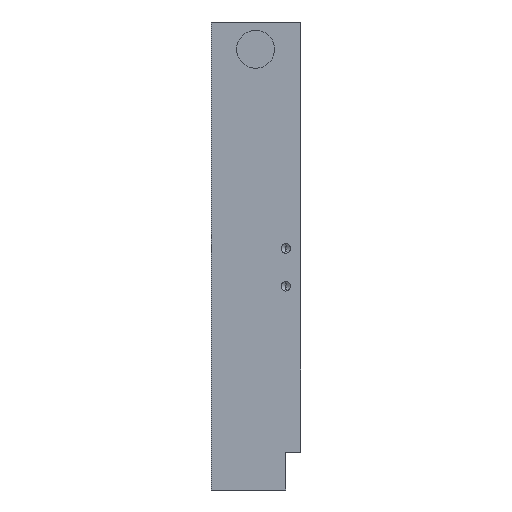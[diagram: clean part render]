
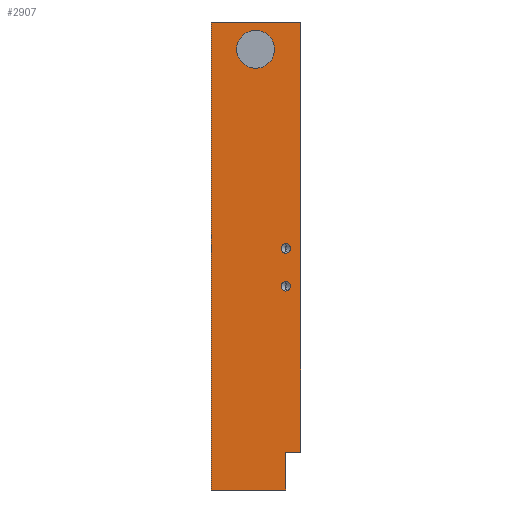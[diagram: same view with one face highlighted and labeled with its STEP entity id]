
A CAD part, left-side view. The second image highlights one B-rep face of the part: STEP entity #2907.
In plain terms, the highlighted planar face has unit normal (-1, 0, 0).
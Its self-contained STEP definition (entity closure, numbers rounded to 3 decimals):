
#21 = VERTEX_POINT ( 'NONE', #3416 ) ;
#139 = DIRECTION ( 'NONE',  ( 0., 0., 1. ) ) ;
#142 = VERTEX_POINT ( 'NONE', #4151 ) ;
#167 = LINE ( 'NONE', #244, #1692 ) ;
#205 = AXIS2_PLACEMENT_3D ( 'NONE', #3031, #296, #2312 ) ;
#238 = CARTESIAN_POINT ( 'NONE',  ( -164., 23.7, -61.75 ) ) ;
#244 = CARTESIAN_POINT ( 'NONE',  ( -164., 0.2, 61.75 ) ) ;
#279 = ORIENTED_EDGE ( 'NONE', *, *, #4381, .F. ) ;
#284 = CIRCLE ( 'NONE', #205, 5. ) ;
#296 = DIRECTION ( 'NONE',  ( -1., 0., 0. ) ) ;
#307 = VECTOR ( 'NONE', #3133, 1000. ) ;
#334 = LINE ( 'NONE', #1296, #1901 ) ;
#340 = DIRECTION ( 'NONE',  ( 0., 0., -1. ) ) ;
#353 = DIRECTION ( 'NONE',  ( 0., 0., 1. ) ) ;
#365 = CARTESIAN_POINT ( 'NONE',  ( -164., 23.7, 61.75 ) ) ;
#366 = PLANE ( 'NONE',  #3773 ) ;
#383 = DIRECTION ( 'NONE',  ( 1., 0., 0. ) ) ;
#463 = EDGE_CURVE ( 'NONE', #21, #3569, #2604, .T. ) ;
#504 = VERTEX_POINT ( 'NONE', #365 ) ;
#565 = CIRCLE ( 'NONE', #1525, 5. ) ;
#566 = CARTESIAN_POINT ( 'NONE',  ( -164., 11.95, 49.55 ) ) ;
#594 = VECTOR ( 'NONE', #2281, 1000. ) ;
#636 = LINE ( 'NONE', #3014, #2959 ) ;
#652 = DIRECTION ( 'NONE',  ( 0., -1., 0. ) ) ;
#707 = FACE_BOUND ( 'NONE', #2921, .T. ) ;
#724 = EDGE_CURVE ( 'NONE', #1546, #1430, #2996, .T. ) ;
#748 = DIRECTION ( 'NONE',  ( 0., 0., 1. ) ) ;
#751 = CARTESIAN_POINT ( 'NONE',  ( -164., 4., -51.75 ) ) ;
#793 = CARTESIAN_POINT ( 'NONE',  ( -164., 4., 2. ) ) ;
#799 = CARTESIAN_POINT ( 'NONE',  ( -164., 4., -8. ) ) ;
#817 = ORIENTED_EDGE ( 'NONE', *, *, #463, .T. ) ;
#927 = ORIENTED_EDGE ( 'NONE', *, *, #1886, .F. ) ;
#929 = AXIS2_PLACEMENT_3D ( 'NONE', #799, #1808, #139 ) ;
#1124 = DIRECTION ( 'NONE',  ( 0., 0., 1. ) ) ;
#1129 = VERTEX_POINT ( 'NONE', #3768 ) ;
#1167 = CARTESIAN_POINT ( 'NONE',  ( -164., 4., -6.75 ) ) ;
#1208 = EDGE_CURVE ( 'NONE', #1947, #2553, #284, .T. ) ;
#1218 = EDGE_CURVE ( 'NONE', #2262, #3569, #4066, .T. ) ;
#1296 = CARTESIAN_POINT ( 'NONE',  ( -164., 0.2, 45.75 ) ) ;
#1334 = CARTESIAN_POINT ( 'NONE',  ( -164., 0., 61.75 ) ) ;
#1337 = ORIENTED_EDGE ( 'NONE', *, *, #2889, .F. ) ;
#1430 = VERTEX_POINT ( 'NONE', #1167 ) ;
#1445 = VECTOR ( 'NONE', #340, 1000. ) ;
#1458 = ORIENTED_EDGE ( 'NONE', *, *, #2161, .T. ) ;
#1525 = AXIS2_PLACEMENT_3D ( 'NONE', #3194, #4312, #1887 ) ;
#1546 = VERTEX_POINT ( 'NONE', #2673 ) ;
#1616 = VECTOR ( 'NONE', #2577, 1000. ) ;
#1654 = DIRECTION ( 'NONE',  ( 0., 0., 1. ) ) ;
#1680 = CARTESIAN_POINT ( 'NONE',  ( -164., 0., -51.75 ) ) ;
#1683 = EDGE_CURVE ( 'NONE', #1129, #3525, #2458, .T. ) ;
#1692 = VECTOR ( 'NONE', #3618, 1000. ) ;
#1746 = DIRECTION ( 'NONE',  ( -1., 0., 0. ) ) ;
#1808 = DIRECTION ( 'NONE',  ( -1., 0., 0. ) ) ;
#1883 = ORIENTED_EDGE ( 'NONE', *, *, #4322, .F. ) ;
#1886 = EDGE_CURVE ( 'NONE', #2553, #1947, #565, .T. ) ;
#1887 = DIRECTION ( 'NONE',  ( 0., 0., -1. ) ) ;
#1901 = VECTOR ( 'NONE', #652, 1000. ) ;
#1930 = CARTESIAN_POINT ( 'NONE',  ( -164., 23.7, 61.75 ) ) ;
#1947 = VERTEX_POINT ( 'NONE', #566 ) ;
#1951 = ORIENTED_EDGE ( 'NONE', *, *, #724, .F. ) ;
#1971 = CARTESIAN_POINT ( 'NONE',  ( -164., 0., 45.75 ) ) ;
#2069 = FACE_BOUND ( 'NONE', #3113, .T. ) ;
#2071 = EDGE_CURVE ( 'NONE', #2262, #2147, #3216, .T. ) ;
#2147 = VERTEX_POINT ( 'NONE', #1680 ) ;
#2161 = EDGE_CURVE ( 'NONE', #2147, #3774, #2716, .T. ) ;
#2168 = CIRCLE ( 'NONE', #3691, 1.25 ) ;
#2186 = ORIENTED_EDGE ( 'NONE', *, *, #3595, .F. ) ;
#2191 = AXIS2_PLACEMENT_3D ( 'NONE', #2803, #3141, #748 ) ;
#2239 = ORIENTED_EDGE ( 'NONE', *, *, #2071, .T. ) ;
#2262 = VERTEX_POINT ( 'NONE', #4050 ) ;
#2281 = DIRECTION ( 'NONE',  ( 0., -1., 0. ) ) ;
#2312 = DIRECTION ( 'NONE',  ( 0., 0., -1. ) ) ;
#2328 = CARTESIAN_POINT ( 'NONE',  ( -164., 4., 3.25 ) ) ;
#2387 = CARTESIAN_POINT ( 'NONE',  ( -164., 23.7, 61.75 ) ) ;
#2458 = CIRCLE ( 'NONE', #2191, 1.25 ) ;
#2533 = FACE_OUTER_BOUND ( 'NONE', #2621, .T. ) ;
#2553 = VERTEX_POINT ( 'NONE', #4352 ) ;
#2577 = DIRECTION ( 'NONE',  ( 0., -1., 0. ) ) ;
#2604 = LINE ( 'NONE', #238, #1616 ) ;
#2621 = EDGE_LOOP ( 'NONE', ( #3434, #2239, #1458, #279, #2186, #1883, #4087, #817 ) ) ;
#2673 = CARTESIAN_POINT ( 'NONE',  ( -164., 4., -9.25 ) ) ;
#2716 = LINE ( 'NONE', #1334, #4140 ) ;
#2803 = CARTESIAN_POINT ( 'NONE',  ( -164., 4., 2. ) ) ;
#2854 = ORIENTED_EDGE ( 'NONE', *, *, #3220, .F. ) ;
#2889 = EDGE_CURVE ( 'NONE', #1430, #1546, #2168, .T. ) ;
#2907 = ADVANCED_FACE ( 'NONE', ( #707, #4229, #2069, #2533 ), #366, .F. ) ;
#2921 = EDGE_LOOP ( 'NONE', ( #2854, #3835 ) ) ;
#2959 = VECTOR ( 'NONE', #1654, 1000. ) ;
#2996 = CIRCLE ( 'NONE', #929, 1.25 ) ;
#3012 = CARTESIAN_POINT ( 'NONE',  ( -164., 4., -61.75 ) ) ;
#3014 = CARTESIAN_POINT ( 'NONE',  ( -164., 23.7, 61.75 ) ) ;
#3031 = CARTESIAN_POINT ( 'NONE',  ( -164., 11.95, 54.55 ) ) ;
#3113 = EDGE_LOOP ( 'NONE', ( #3339, #927 ) ) ;
#3133 = DIRECTION ( 'NONE',  ( 0., -1., 0. ) ) ;
#3141 = DIRECTION ( 'NONE',  ( -1., 0., 0. ) ) ;
#3144 = CIRCLE ( 'NONE', #4220, 1.25 ) ;
#3194 = CARTESIAN_POINT ( 'NONE',  ( -164., 11.95, 54.55 ) ) ;
#3216 = LINE ( 'NONE', #751, #307 ) ;
#3220 = EDGE_CURVE ( 'NONE', #3525, #1129, #3144, .T. ) ;
#3305 = LINE ( 'NONE', #1930, #594 ) ;
#3339 = ORIENTED_EDGE ( 'NONE', *, *, #1208, .F. ) ;
#3411 = CARTESIAN_POINT ( 'NONE',  ( -164., 4., -8. ) ) ;
#3416 = CARTESIAN_POINT ( 'NONE',  ( -164., 23.7, -61.75 ) ) ;
#3434 = ORIENTED_EDGE ( 'NONE', *, *, #1218, .F. ) ;
#3525 = VERTEX_POINT ( 'NONE', #2328 ) ;
#3568 = EDGE_CURVE ( 'NONE', #21, #504, #636, .T. ) ;
#3569 = VERTEX_POINT ( 'NONE', #3721 ) ;
#3595 = EDGE_CURVE ( 'NONE', #142, #3673, #167, .T. ) ;
#3618 = DIRECTION ( 'NONE',  ( 0., 0., -1. ) ) ;
#3673 = VERTEX_POINT ( 'NONE', #3976 ) ;
#3691 = AXIS2_PLACEMENT_3D ( 'NONE', #3411, #1746, #353 ) ;
#3721 = CARTESIAN_POINT ( 'NONE',  ( -164., 4., -61.75 ) ) ;
#3768 = CARTESIAN_POINT ( 'NONE',  ( -164., 4., 0.75 ) ) ;
#3773 = AXIS2_PLACEMENT_3D ( 'NONE', #2387, #383, #4219 ) ;
#3774 = VERTEX_POINT ( 'NONE', #1971 ) ;
#3835 = ORIENTED_EDGE ( 'NONE', *, *, #1683, .F. ) ;
#3895 = DIRECTION ( 'NONE',  ( -1., 0., 0. ) ) ;
#3924 = EDGE_LOOP ( 'NONE', ( #1337, #1951 ) ) ;
#3976 = CARTESIAN_POINT ( 'NONE',  ( -164., 0.2, 45.75 ) ) ;
#4050 = CARTESIAN_POINT ( 'NONE',  ( -164., 4., -51.75 ) ) ;
#4066 = LINE ( 'NONE', #3012, #1445 ) ;
#4087 = ORIENTED_EDGE ( 'NONE', *, *, #3568, .F. ) ;
#4140 = VECTOR ( 'NONE', #4348, 1000. ) ;
#4151 = CARTESIAN_POINT ( 'NONE',  ( -164., 0.2, 61.75 ) ) ;
#4219 = DIRECTION ( 'NONE',  ( 0., 0., -1. ) ) ;
#4220 = AXIS2_PLACEMENT_3D ( 'NONE', #793, #3895, #1124 ) ;
#4229 = FACE_BOUND ( 'NONE', #3924, .T. ) ;
#4312 = DIRECTION ( 'NONE',  ( -1., 0., 0. ) ) ;
#4322 = EDGE_CURVE ( 'NONE', #504, #142, #3305, .T. ) ;
#4348 = DIRECTION ( 'NONE',  ( 0., 0., 1. ) ) ;
#4352 = CARTESIAN_POINT ( 'NONE',  ( -164., 11.95, 59.55 ) ) ;
#4381 = EDGE_CURVE ( 'NONE', #3673, #3774, #334, .T. ) ;
